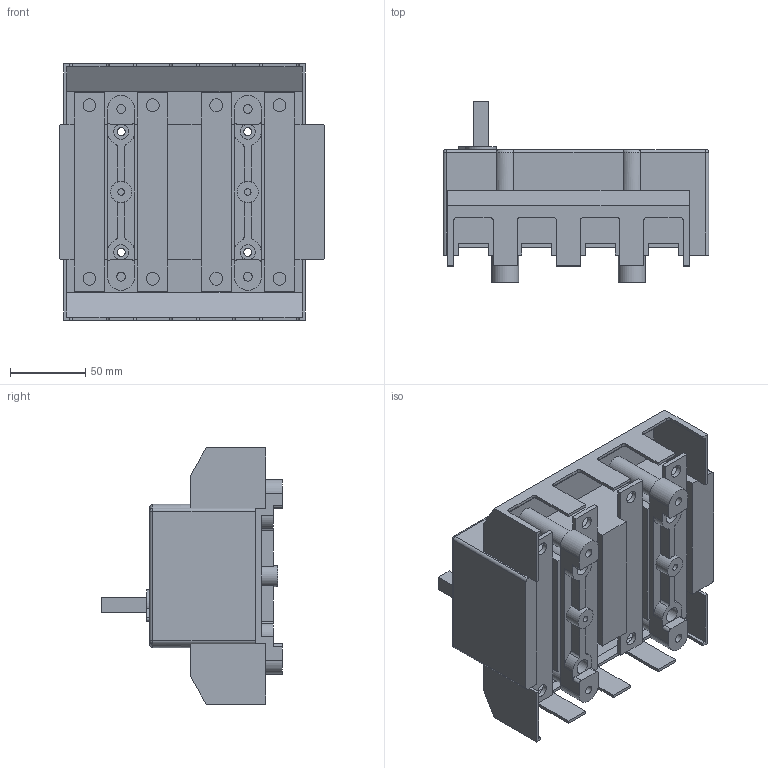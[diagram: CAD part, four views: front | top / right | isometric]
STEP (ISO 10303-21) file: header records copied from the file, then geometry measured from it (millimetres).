
FILE_DESCRIPTION(/* description */ (''),/* implementation_level */ '2;1');
FILE_NAME(/* name */ 'RA160 P3 N z oslona zaciskow.stp',/* time_stamp */ '2021-08-17T13:40:05+02:00',/* author */ (''),/* organization */ (''),/* preprocessor_version */ 'ST-DEVELOPER v18.1',/* originating_system */ 'SIEMENS PLM Software NX 1965',/* authorisation */ '');
FILE_SCHEMA (('AUTOMOTIVE_DESIGN { 1 0 10303 214 3 1 1 1 }'));
Length unit declared in the file: millimetre
Products named in the file (1): RA160 P3 N z oslona zaciskow_stp
Bounding box: 176 x 120 x 169.8 mm (x, y, z)
Volume: 1201240.5 mm3; surface area: 159308.2 mm2
Topology: 1 solids, 1 shells, 292 faces, 838 edges, 542 vertices
Faces by surface type: plane 178, cylinder 106, torus 4, sphere 4
Full cylindrical faces by diameter (mm): 4.3 x2, 5.3 x4, 5.8 x4, 8.5 x8, 10 x12, 13 x4, 14 x2
Entity records: 9300 total; most frequent: CARTESIAN_POINT 1641, DIRECTION 1586, ORIENTED_EDGE 1556, EDGE_CURVE 778, LINE 540, VECTOR 540, AXIS2_PLACEMENT_3D 523, VERTEX_POINT 522
